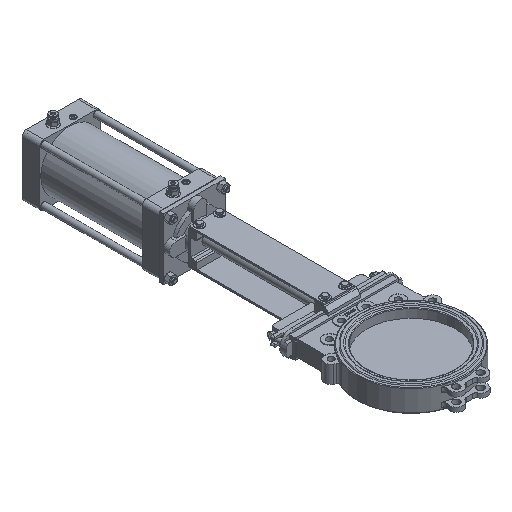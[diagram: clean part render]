
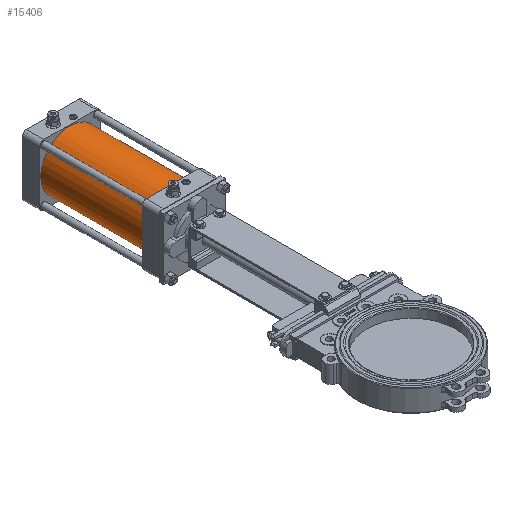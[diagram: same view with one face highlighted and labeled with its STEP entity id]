
A CAD part, isometric view. The second image highlights one B-rep face of the part: STEP entity #15406.
In plain terms, the highlighted cylindrical face has radius 100 mm (diameter 200 mm), a full revolution.
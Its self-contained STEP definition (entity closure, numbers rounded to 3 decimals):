
#1790=LINE('',#25524,#2902);
#2902=VECTOR('',#20239,100.);
#4038=FACE_OUTER_BOUND('',#5020,.T.);
#5020=EDGE_LOOP('',(#12315,#12316,#12317,#12318));
#5866=CIRCLE('',#16809,100.);
#5879=CIRCLE('',#16836,100.);
#7037=VERTEX_POINT('',#25463);
#7054=VERTEX_POINT('',#25523);
#8883=EDGE_CURVE('',#7037,#7037,#5866,.T.);
#8912=EDGE_CURVE('',#7037,#7054,#1790,.T.);
#8913=EDGE_CURVE('',#7054,#7054,#5879,.T.);
#12315=ORIENTED_EDGE('',*,*,#8883,.F.);
#12316=ORIENTED_EDGE('',*,*,#8912,.T.);
#12317=ORIENTED_EDGE('',*,*,#8913,.F.);
#12318=ORIENTED_EDGE('',*,*,#8912,.F.);
#13891=CYLINDRICAL_SURFACE('',#16835,100.);
#15406=ADVANCED_FACE('',(#4038),#13891,.T.);
#16809=AXIS2_PLACEMENT_3D('',#25464,#20169,#20170);
#16835=AXIS2_PLACEMENT_3D('',#25522,#20237,#20238);
#16836=AXIS2_PLACEMENT_3D('',#25525,#20240,#20241);
#20169=DIRECTION('center_axis',(0.,1.,0.));
#20170=DIRECTION('ref_axis',(1.,0.,0.));
#20237=DIRECTION('center_axis',(0.,1.,0.));
#20238=DIRECTION('ref_axis',(1.,0.,0.));
#20239=DIRECTION('',(0.,-1.,0.));
#20240=DIRECTION('center_axis',(0.,-1.,0.));
#20241=DIRECTION('ref_axis',(1.,0.,0.));
#25463=CARTESIAN_POINT('',(-100.,1165.,0.));
#25464=CARTESIAN_POINT('Origin',(0.,1165.,0.));
#25522=CARTESIAN_POINT('Origin',(0.,815.,0.));
#25523=CARTESIAN_POINT('',(-100.,815.,0.));
#25524=CARTESIAN_POINT('',(-100.,815.,0.));
#25525=CARTESIAN_POINT('Origin',(0.,815.,0.));
